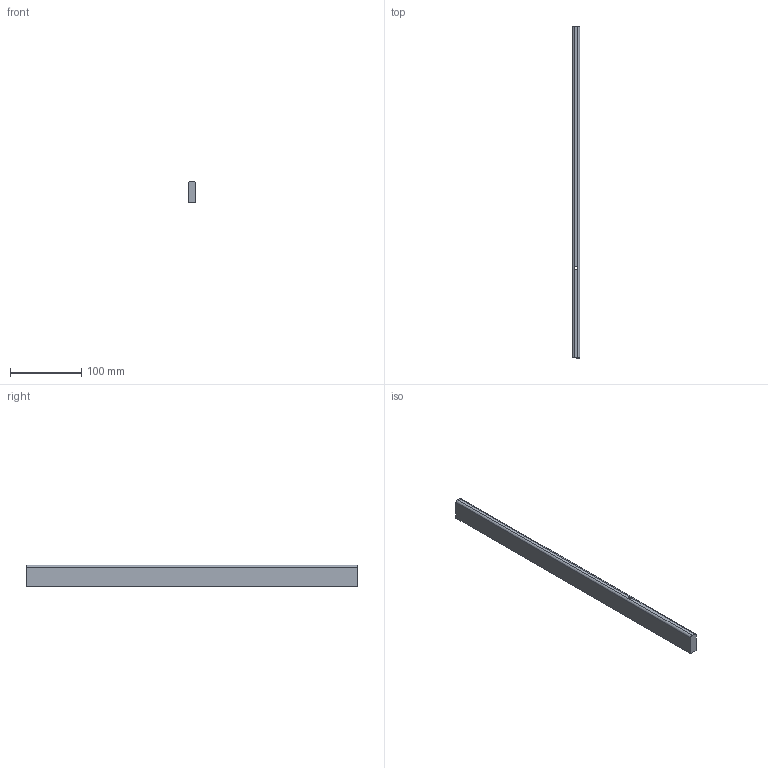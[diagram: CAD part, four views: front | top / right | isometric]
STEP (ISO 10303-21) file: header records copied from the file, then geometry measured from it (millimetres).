
FILE_DESCRIPTION (( 'STEP AP214' ), '1' );
FILE_NAME ('_Seitenreling_SP60702400_RL465.step', '2010-09-06T14:52:09', ( 'grass' ), ( '' ), 'SwSTEP 2.0', 'SolidWorks 2010', '' );
FILE_SCHEMA (( 'AUTOMOTIVE_DESIGN' ));
Length unit declared in the file: millimetre
Products named in the file (1): _Seitenreling_SP60702400_RL465
Bounding box: 10.5 x 465 x 30 mm (x, y, z)
Volume: 143759.7 mm3; surface area: 37628.2 mm2
Topology: 1 solids, 1 shells, 14 faces, 34 edges, 22 vertices
Faces by surface type: plane 8, cylinder 6
Entity records: 454 total; most frequent: DIRECTION 78, CARTESIAN_POINT 71, ORIENTED_EDGE 68, EDGE_CURVE 34, AXIS2_PLACEMENT_3D 29, VERTEX_POINT 22, LINE 20, VECTOR 20
